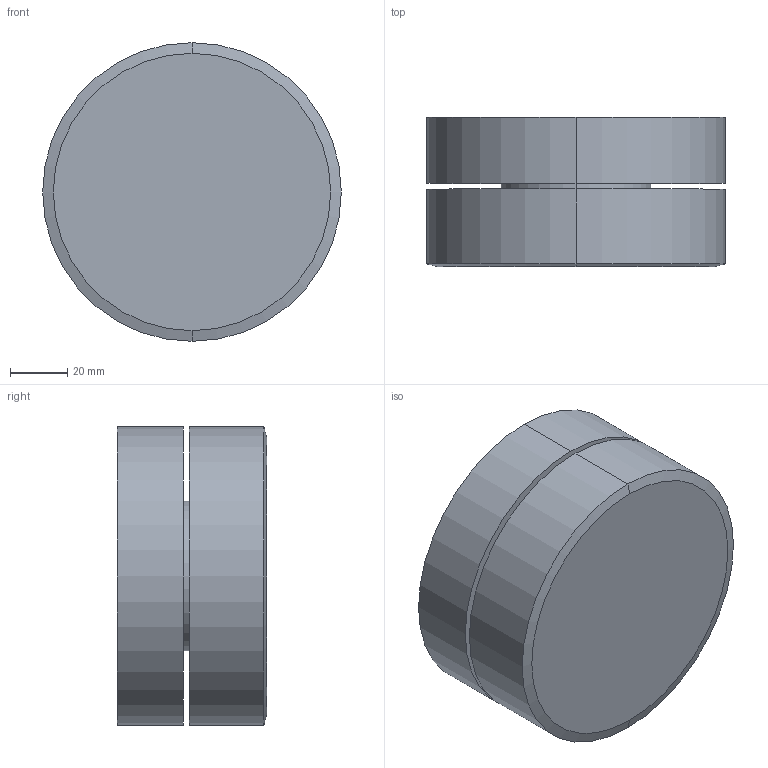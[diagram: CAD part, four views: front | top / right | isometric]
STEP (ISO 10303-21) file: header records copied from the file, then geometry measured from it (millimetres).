
FILE_DESCRIPTION (( 'STEP AP203' ), '1' );
FILE_NAME ('PIU-3.STEP', '2016-01-13T06:16:02', ( '' ), ( '' ), 'SwSTEP 2.0', 'SolidWorks 2013', '' );
FILE_SCHEMA (( 'CONFIG_CONTROL_DESIGN' ));
Length unit declared in the file: millimetre
Products named in the file (1): PIU-3
Bounding box: 104 x 52 x 104 mm (x, y, z)
Volume: 426698.8 mm3; surface area: 47074 mm2
Topology: 1 solids, 1 shells, 28 faces, 62 edges, 34 vertices
Faces by surface type: cylinder 14, cone 10, plane 4
Entity records: 797 total; most frequent: DIRECTION 142, CARTESIAN_POINT 117, ORIENTED_EDGE 108, AXIS2_PLACEMENT_3D 59, EDGE_CURVE 54, VERTEX_POINT 34, EDGE_LOOP 34, CIRCLE 30
